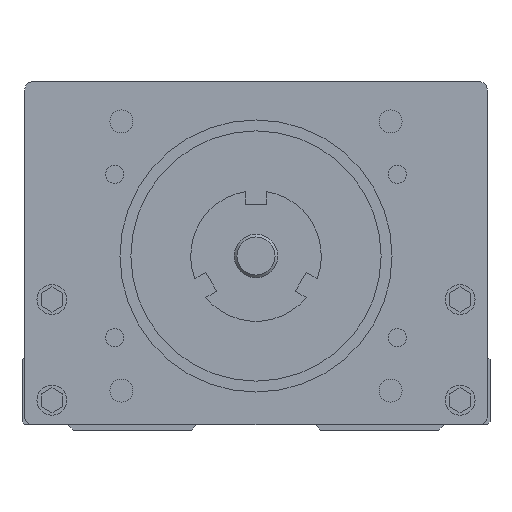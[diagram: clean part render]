
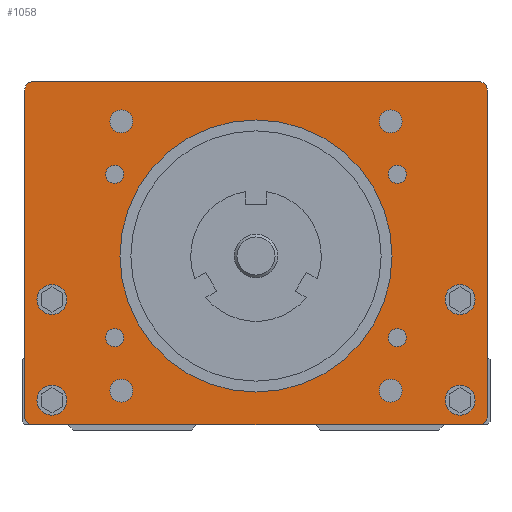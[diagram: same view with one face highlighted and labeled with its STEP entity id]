
A CAD part, front view. The second image highlights one B-rep face of the part: STEP entity #1058.
In plain terms, the highlighted planar face has unit normal (0, -1, 0).
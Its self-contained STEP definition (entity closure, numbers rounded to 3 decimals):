
#1058=ADVANCED_FACE('',(#2178,#2179,#2180,#2181,#2182,#2183,#2184,#2185,
#2186,#2187,#2188,#2189,#2190,#2191),#1522,.F.);
#1522=PLANE('',#8734);
#1836=CIRCLE('',#8706,1.5);
#1843=CIRCLE('',#8717,1.5);
#1844=CIRCLE('',#8719,1.5);
#1845=CIRCLE('',#8720,1.5);
#1846=CIRCLE('',#8721,2.75);
#1847=CIRCLE('',#8722,2.75);
#1848=CIRCLE('',#8723,2.75);
#1849=CIRCLE('',#8724,2.75);
#1850=CIRCLE('',#8725,25.);
#1851=CIRCLE('',#8726,1.65);
#1852=CIRCLE('',#8727,1.65);
#1853=CIRCLE('',#8728,1.65);
#1854=CIRCLE('',#8729,1.65);
#1855=CIRCLE('',#8730,2.1);
#1856=CIRCLE('',#8731,2.1);
#1857=CIRCLE('',#8732,2.1);
#1858=CIRCLE('',#8733,2.1);
#2178=FACE_BOUND('',#2550,.T.);
#2179=FACE_BOUND('',#2551,.T.);
#2180=FACE_BOUND('',#2552,.T.);
#2181=FACE_BOUND('',#2553,.T.);
#2182=FACE_BOUND('',#2554,.T.);
#2183=FACE_BOUND('',#2555,.T.);
#2184=FACE_BOUND('',#2556,.T.);
#2185=FACE_BOUND('',#2557,.T.);
#2186=FACE_BOUND('',#2558,.T.);
#2187=FACE_BOUND('',#2559,.T.);
#2188=FACE_BOUND('',#2560,.T.);
#2189=FACE_BOUND('',#2561,.T.);
#2190=FACE_BOUND('',#2562,.T.);
#2191=FACE_BOUND('',#2563,.T.);
#2550=EDGE_LOOP('',(#3539,#3540,#3541,#3542,#3543,#3544,#3545,#3546));
#2551=EDGE_LOOP('',(#3547));
#2552=EDGE_LOOP('',(#3548));
#2553=EDGE_LOOP('',(#3549));
#2554=EDGE_LOOP('',(#3550));
#2555=EDGE_LOOP('',(#3551));
#2556=EDGE_LOOP('',(#3552));
#2557=EDGE_LOOP('',(#3553));
#2558=EDGE_LOOP('',(#3554));
#2559=EDGE_LOOP('',(#3555));
#2560=EDGE_LOOP('',(#3556));
#2561=EDGE_LOOP('',(#3557));
#2562=EDGE_LOOP('',(#3558));
#2563=EDGE_LOOP('',(#3559));
#3539=ORIENTED_EDGE('',*,*,#6061,.T.);
#3540=ORIENTED_EDGE('',*,*,#6313,.F.);
#3541=ORIENTED_EDGE('',*,*,#6262,.T.);
#3542=ORIENTED_EDGE('',*,*,#6312,.F.);
#3543=ORIENTED_EDGE('',*,*,#6299,.T.);
#3544=ORIENTED_EDGE('',*,*,#6297,.F.);
#3545=ORIENTED_EDGE('',*,*,#6289,.T.);
#3546=ORIENTED_EDGE('',*,*,#6314,.F.);
#3547=ORIENTED_EDGE('',*,*,#6315,.F.);
#3548=ORIENTED_EDGE('',*,*,#6316,.F.);
#3549=ORIENTED_EDGE('',*,*,#6317,.F.);
#3550=ORIENTED_EDGE('',*,*,#6318,.F.);
#3551=ORIENTED_EDGE('',*,*,#6319,.F.);
#3552=ORIENTED_EDGE('',*,*,#6320,.F.);
#3553=ORIENTED_EDGE('',*,*,#6321,.F.);
#3554=ORIENTED_EDGE('',*,*,#6322,.F.);
#3555=ORIENTED_EDGE('',*,*,#6323,.F.);
#3556=ORIENTED_EDGE('',*,*,#6324,.F.);
#3557=ORIENTED_EDGE('',*,*,#6325,.F.);
#3558=ORIENTED_EDGE('',*,*,#6326,.F.);
#3559=ORIENTED_EDGE('',*,*,#6327,.F.);
#5310=VERTEX_POINT('',#11875);
#5311=VERTEX_POINT('',#11877);
#5460=VERTEX_POINT('',#12307);
#5461=VERTEX_POINT('',#12309);
#5486=VERTEX_POINT('',#12381);
#5487=VERTEX_POINT('',#12383);
#5491=VERTEX_POINT('',#12399);
#5492=VERTEX_POINT('',#12403);
#5502=VERTEX_POINT('',#12433);
#5503=VERTEX_POINT('',#12435);
#5504=VERTEX_POINT('',#12437);
#5505=VERTEX_POINT('',#12439);
#5506=VERTEX_POINT('',#12441);
#5507=VERTEX_POINT('',#12443);
#5508=VERTEX_POINT('',#12445);
#5509=VERTEX_POINT('',#12447);
#5510=VERTEX_POINT('',#12449);
#5511=VERTEX_POINT('',#12451);
#5512=VERTEX_POINT('',#12453);
#5513=VERTEX_POINT('',#12455);
#5514=VERTEX_POINT('',#12457);
#6061=EDGE_CURVE('',#5311,#5310,#7148,.T.);
#6262=EDGE_CURVE('',#5461,#5460,#7293,.T.);
#6289=EDGE_CURVE('',#5487,#5486,#7304,.T.);
#6297=EDGE_CURVE('',#5487,#5491,#1836,.T.);
#6299=EDGE_CURVE('',#5492,#5491,#7309,.T.);
#6312=EDGE_CURVE('',#5492,#5460,#1843,.T.);
#6313=EDGE_CURVE('',#5461,#5310,#1844,.T.);
#6314=EDGE_CURVE('',#5311,#5486,#1845,.T.);
#6315=EDGE_CURVE('',#5502,#5502,#1846,.T.);
#6316=EDGE_CURVE('',#5503,#5503,#1847,.T.);
#6317=EDGE_CURVE('',#5504,#5504,#1848,.T.);
#6318=EDGE_CURVE('',#5505,#5505,#1849,.T.);
#6319=EDGE_CURVE('',#5506,#5506,#1850,.T.);
#6320=EDGE_CURVE('',#5507,#5507,#1851,.T.);
#6321=EDGE_CURVE('',#5508,#5508,#1852,.T.);
#6322=EDGE_CURVE('',#5509,#5509,#1853,.T.);
#6323=EDGE_CURVE('',#5510,#5510,#1854,.T.);
#6324=EDGE_CURVE('',#5511,#5511,#1855,.T.);
#6325=EDGE_CURVE('',#5512,#5512,#1856,.T.);
#6326=EDGE_CURVE('',#5513,#5513,#1857,.T.);
#6327=EDGE_CURVE('',#5514,#5514,#1858,.T.);
#7148=LINE('',#11876,#7865);
#7293=LINE('',#12308,#8010);
#7304=LINE('',#12382,#8021);
#7309=LINE('',#12402,#8026);
#7865=VECTOR('',#9438,1.);
#8010=VECTOR('',#9777,1.);
#8021=VECTOR('',#9862,1.);
#8026=VECTOR('',#9887,1.);
#8706=AXIS2_PLACEMENT_3D('',#12398,#9882,#9883);
#8717=AXIS2_PLACEMENT_3D('',#12428,#9912,#9913);
#8719=AXIS2_PLACEMENT_3D('',#12430,#9916,#9917);
#8720=AXIS2_PLACEMENT_3D('',#12431,#9918,#9919);
#8721=AXIS2_PLACEMENT_3D('',#12432,#9920,#9921);
#8722=AXIS2_PLACEMENT_3D('',#12434,#9922,#9923);
#8723=AXIS2_PLACEMENT_3D('',#12436,#9924,#9925);
#8724=AXIS2_PLACEMENT_3D('',#12438,#9926,#9927);
#8725=AXIS2_PLACEMENT_3D('',#12440,#9928,#9929);
#8726=AXIS2_PLACEMENT_3D('',#12442,#9930,#9931);
#8727=AXIS2_PLACEMENT_3D('',#12444,#9932,#9933);
#8728=AXIS2_PLACEMENT_3D('',#12446,#9934,#9935);
#8729=AXIS2_PLACEMENT_3D('',#12448,#9936,#9937);
#8730=AXIS2_PLACEMENT_3D('',#12450,#9938,#9939);
#8731=AXIS2_PLACEMENT_3D('',#12452,#9940,#9941);
#8732=AXIS2_PLACEMENT_3D('',#12454,#9942,#9943);
#8733=AXIS2_PLACEMENT_3D('',#12456,#9944,#9945);
#8734=AXIS2_PLACEMENT_3D('',#12458,#9946,#9947);
#9438=DIRECTION('',(1.,0.,0.));
#9777=DIRECTION('',(0.,0.,1.));
#9862=DIRECTION('',(0.,0.,-1.));
#9882=DIRECTION('',(0.,1.,0.));
#9883=DIRECTION('',(-1.,0.,0.));
#9887=DIRECTION('',(-1.,0.,0.));
#9912=DIRECTION('',(0.,1.,0.));
#9913=DIRECTION('',(0.,0.,1.));
#9916=DIRECTION('',(0.,1.,0.));
#9917=DIRECTION('',(1.,0.,0.));
#9918=DIRECTION('',(0.,1.,0.));
#9919=DIRECTION('',(0.,0.,-1.));
#9920=DIRECTION('',(0.,-1.,0.));
#9921=DIRECTION('',(0.,0.,1.));
#9922=DIRECTION('',(0.,-1.,0.));
#9923=DIRECTION('',(0.,0.,1.));
#9924=DIRECTION('',(0.,-1.,0.));
#9925=DIRECTION('',(0.,0.,1.));
#9926=DIRECTION('',(0.,-1.,0.));
#9927=DIRECTION('',(0.,0.,1.));
#9928=DIRECTION('',(0.,-1.,0.));
#9929=DIRECTION('',(1.,0.,0.));
#9930=DIRECTION('',(0.,-1.,0.));
#9931=DIRECTION('',(1.,0.,0.));
#9932=DIRECTION('',(0.,-1.,0.));
#9933=DIRECTION('',(1.,0.,0.));
#9934=DIRECTION('',(0.,-1.,0.));
#9935=DIRECTION('',(1.,0.,0.));
#9936=DIRECTION('',(0.,-1.,0.));
#9937=DIRECTION('',(1.,0.,0.));
#9938=DIRECTION('',(0.,-1.,0.));
#9939=DIRECTION('',(1.,0.,0.));
#9940=DIRECTION('',(0.,-1.,0.));
#9941=DIRECTION('',(1.,0.,0.));
#9942=DIRECTION('',(0.,-1.,0.));
#9943=DIRECTION('',(1.,0.,0.));
#9944=DIRECTION('',(0.,-1.,0.));
#9945=DIRECTION('',(1.,0.,0.));
#9946=DIRECTION('',(0.,1.,0.));
#9947=DIRECTION('',(1.,0.,0.));
#11875=CARTESIAN_POINT('',(41.,50.,0.));
#11876=CARTESIAN_POINT('',(-41.,50.,0.));
#11877=CARTESIAN_POINT('',(-41.,50.,0.));
#12307=CARTESIAN_POINT('',(42.5,50.,61.5));
#12308=CARTESIAN_POINT('',(42.5,50.,1.5));
#12309=CARTESIAN_POINT('',(42.5,50.,1.5));
#12381=CARTESIAN_POINT('',(-42.5,50.,1.5));
#12382=CARTESIAN_POINT('',(-42.5,50.,61.5));
#12383=CARTESIAN_POINT('',(-42.5,50.,61.5));
#12398=CARTESIAN_POINT('',(-41.,50.,61.5));
#12399=CARTESIAN_POINT('',(-41.,50.,63.));
#12402=CARTESIAN_POINT('',(41.,50.,63.));
#12403=CARTESIAN_POINT('',(41.,50.,63.));
#12428=CARTESIAN_POINT('',(41.,50.,61.5));
#12430=CARTESIAN_POINT('',(41.,50.,1.5));
#12431=CARTESIAN_POINT('',(-41.,50.,1.5));
#12432=CARTESIAN_POINT('',(37.5,50.,4.5));
#12433=CARTESIAN_POINT('',(37.5,50.,7.25));
#12434=CARTESIAN_POINT('',(37.5,50.,23.));
#12435=CARTESIAN_POINT('',(37.5,50.,25.75));
#12436=CARTESIAN_POINT('',(-37.5,50.,23.));
#12437=CARTESIAN_POINT('',(-37.5,50.,25.75));
#12438=CARTESIAN_POINT('',(-37.5,50.,4.5));
#12439=CARTESIAN_POINT('',(-37.5,50.,7.25));
#12440=CARTESIAN_POINT('',(0.,50.,31.));
#12441=CARTESIAN_POINT('',(25.,50.,31.));
#12442=CARTESIAN_POINT('',(-25.981,50.,46.));
#12443=CARTESIAN_POINT('',(-24.331,50.,46.));
#12444=CARTESIAN_POINT('',(-25.981,50.,16.));
#12445=CARTESIAN_POINT('',(-24.331,50.,16.));
#12446=CARTESIAN_POINT('',(25.981,50.,16.));
#12447=CARTESIAN_POINT('',(27.631,50.,16.));
#12448=CARTESIAN_POINT('',(25.981,50.,46.));
#12449=CARTESIAN_POINT('',(27.631,50.,46.));
#12450=CARTESIAN_POINT('',(24.749,50.,55.749));
#12451=CARTESIAN_POINT('',(26.849,50.,55.749));
#12452=CARTESIAN_POINT('',(24.749,50.,6.251));
#12453=CARTESIAN_POINT('',(26.849,50.,6.251));
#12454=CARTESIAN_POINT('',(-24.749,50.,6.251));
#12455=CARTESIAN_POINT('',(-22.649,50.,6.251));
#12456=CARTESIAN_POINT('',(-24.749,50.,55.749));
#12457=CARTESIAN_POINT('',(-22.649,50.,55.749));
#12458=CARTESIAN_POINT('',(0.,50.,31.));
